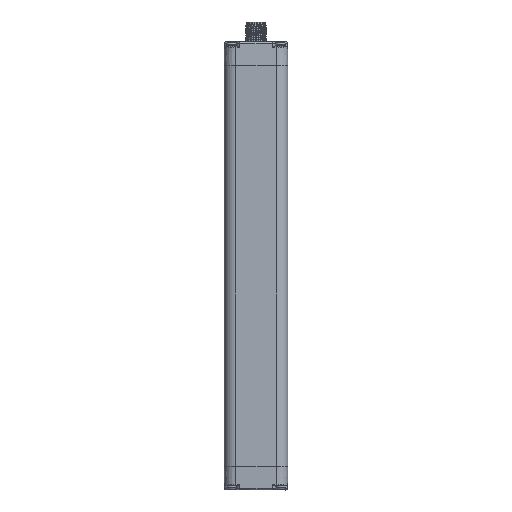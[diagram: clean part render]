
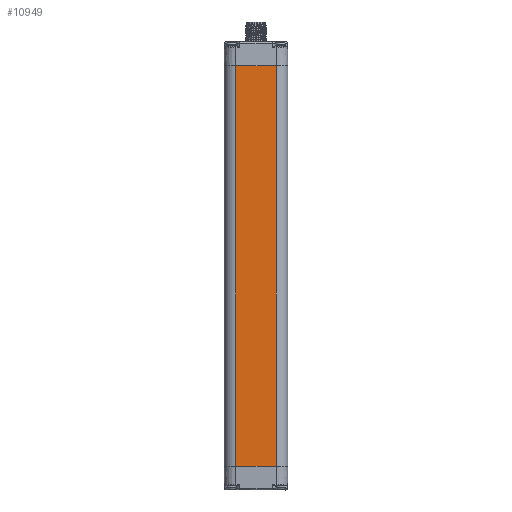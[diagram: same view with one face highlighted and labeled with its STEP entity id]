
A CAD part, front view. The second image highlights one B-rep face of the part: STEP entity #10949.
In plain terms, the highlighted planar face has unit normal (0, -1, 0).
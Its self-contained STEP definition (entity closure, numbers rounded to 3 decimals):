
#8799=B_SPLINE_CURVE_WITH_KNOTS('',3,(#44322,#44323,#44324,#44325),
 .UNSPECIFIED.,.F.,.F.,(4,4),(0.,1.),.UNSPECIFIED.);
#8800=B_SPLINE_CURVE_WITH_KNOTS('',3,(#44329,#44330,#44331,#44332),
 .UNSPECIFIED.,.F.,.F.,(4,4),(0.,1.),.UNSPECIFIED.);
#9689=FACE_OUTER_BOUND('',#15373,.T.);
#10949=ADVANCED_FACE('F5555',(#9689),#11805,.T.);
#11805=PLANE('',#29397);
#12583=LINE('',#42330,#13782);
#12700=LINE('',#44327,#13899);
#13782=VECTOR('',#32772,1.);
#13899=VECTOR('',#33349,1.);
#15373=EDGE_LOOP('',(#19350,#19351,#19352,#19353));
#19350=ORIENTED_EDGE('',*,*,#25916,.F.);
#19351=ORIENTED_EDGE('',*,*,#25915,.T.);
#19352=ORIENTED_EDGE('',*,*,#25497,.F.);
#19353=ORIENTED_EDGE('',*,*,#25917,.T.);
#22971=VERTEX_POINT('',#40793);
#23108=VERTEX_POINT('',#42254);
#23366=VERTEX_POINT('',#44321);
#23367=VERTEX_POINT('',#44328);
#25497=EDGE_CURVE('',#22971,#23108,#12583,.T.);
#25915=EDGE_CURVE('',#23366,#23108,#8799,.T.);
#25916=EDGE_CURVE('',#23366,#23367,#12700,.T.);
#25917=EDGE_CURVE('',#22971,#23367,#8800,.T.);
#29397=AXIS2_PLACEMENT_3D('',#44333,#33350,#33351);
#32772=DIRECTION('',(1.,0.,0.));
#33349=DIRECTION('',(-1.,0.,0.));
#33350=DIRECTION('',(0.,-1.,0.));
#33351=DIRECTION('',(1.,0.,0.));
#40793=CARTESIAN_POINT('',(71.013,-2.493,243.168));
#42254=CARTESIAN_POINT('',(93.013,-2.493,243.168));
#42330=CARTESIAN_POINT('',(82.013,-2.493,243.168));
#44321=CARTESIAN_POINT('',(93.013,-2.493,24.068));
#44322=CARTESIAN_POINT('',(93.013,-2.493,24.068));
#44323=CARTESIAN_POINT('',(93.013,-2.493,97.102));
#44324=CARTESIAN_POINT('',(93.013,-2.493,170.135));
#44325=CARTESIAN_POINT('',(93.013,-2.493,243.168));
#44327=CARTESIAN_POINT('',(64.513,-2.493,24.068));
#44328=CARTESIAN_POINT('',(71.013,-2.493,24.068));
#44329=CARTESIAN_POINT('',(71.013,-2.493,243.168));
#44330=CARTESIAN_POINT('',(71.013,-2.493,170.135));
#44331=CARTESIAN_POINT('',(71.013,-2.493,97.102));
#44332=CARTESIAN_POINT('',(71.013,-2.493,24.068));
#44333=CARTESIAN_POINT('',(64.513,-2.493,-1005.332));
